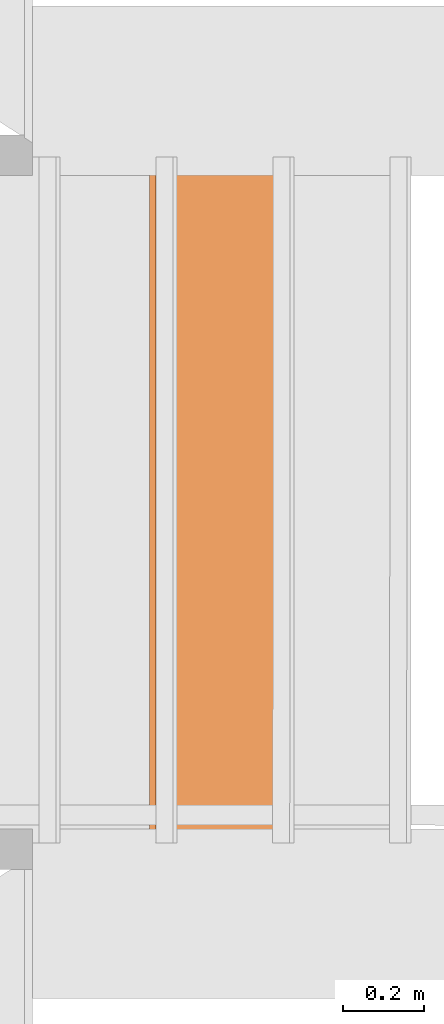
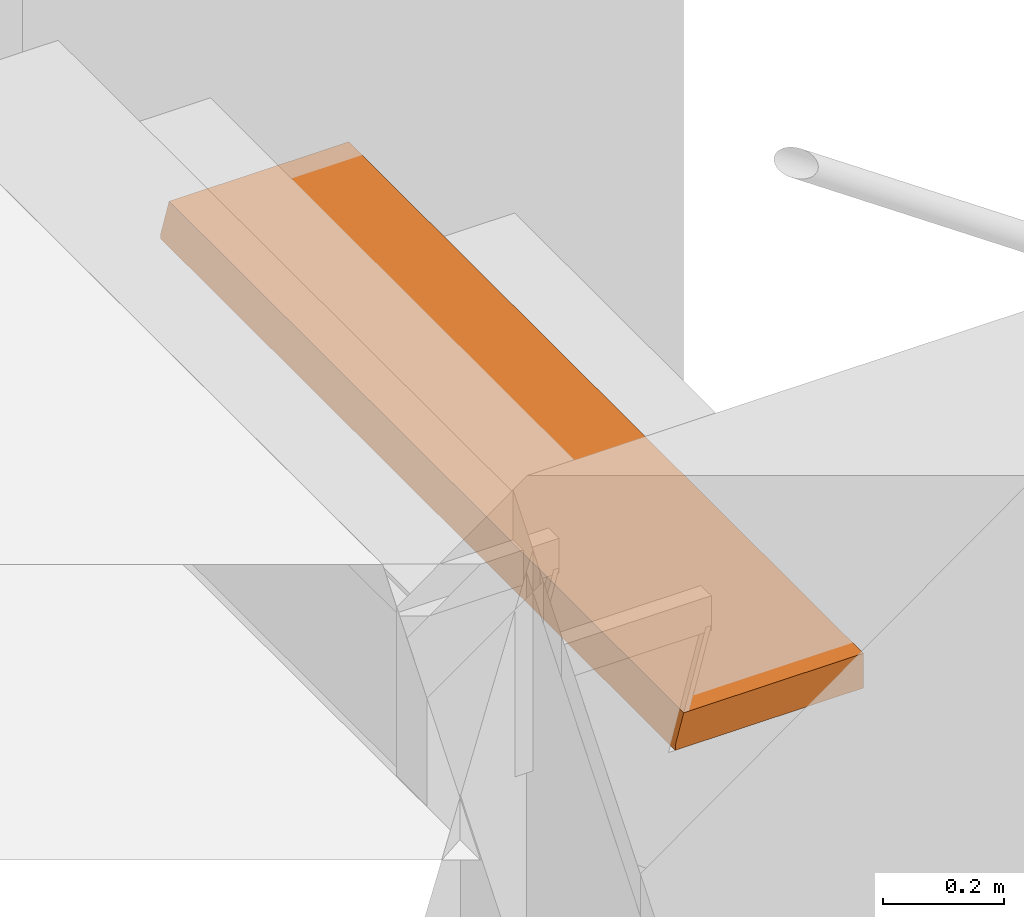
# One storey, part 194 of 194: 1 proxy, 1 element without a shape of its own.
"""IFC2X3 building model written with IfcOpenShell, lengths in millimetres."""

from ifc_helpers import new_model, entity, si_unit, converted_unit, derived_unit, money_unit, direction, frame, origin_with_axes, place, context, subcontext, project, spatial, faceted_brep, material, type_object, element, aggregate, save


model = new_model("IFC2X3")

# Units and contexts
model_context = context("Model", 3, precision=1e-05, world=origin_with_axes(), true_north=direction((0.0, 1.0)))
body_context = subcontext(model_context, "Body", "Model", "MODEL_VIEW")
ifc_project = project(units=[si_unit("LENGTHUNIT", "METRE", prefix="MILLI"), si_unit("AREAUNIT", "SQUARE_METRE"), si_unit("VOLUMEUNIT", "CUBIC_METRE"), converted_unit("PLANEANGLEUNIT", "DEGREE", entity("IfcPlaneAngleMeasure", 0.0174532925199), si_unit("PLANEANGLEUNIT", "RADIAN"), dimensions=[0, 0, 0, 0, 0, 0, 0]), si_unit("SOLIDANGLEUNIT", "STERADIAN"), money_unit("EUR"), converted_unit("TIMEUNIT", "Year", entity("IfcTimeMeasure", 31556926.0), si_unit("TIMEUNIT", "SECOND"), dimensions=[0, 0, 1, 0, 0, 0, 0]), si_unit("MASSUNIT", "GRAM", prefix="KILO"), si_unit("THERMODYNAMICTEMPERATUREUNIT", "DEGREE_CELSIUS"), si_unit("LUMINOUSINTENSITYUNIT", "LUMEN"), si_unit("ENERGYUNIT", "JOULE", prefix="MEGA"), derived_unit("THERMALCONDUCTANCEUNIT", [(si_unit("POWERUNIT", "WATT"), 1), (si_unit("LENGTHUNIT", "METRE"), -1), (si_unit("THERMODYNAMICTEMPERATUREUNIT", "KELVIN"), -1)]), derived_unit("SPECIFICHEATCAPACITYUNIT", [(si_unit("ENERGYUNIT", "JOULE"), 1), (si_unit("MASSUNIT", "GRAM", prefix="KILO"), -1), (si_unit("THERMODYNAMICTEMPERATUREUNIT", "KELVIN"), -1)]), derived_unit("MASSDENSITYUNIT", [(si_unit("MASSUNIT", "GRAM", prefix="KILO"), 1), (si_unit("VOLUMEUNIT", "CUBIC_METRE"), -1)])], contexts=[model_context])

# Site, building, storey
site_placement = place(None, origin_with_axes())
site = spatial("IfcSite", under=ifc_project, at=site_placement, Name="Site", CompositionType="ELEMENT")
building_placement = place(site_placement, origin_with_axes())
building = spatial("IfcBuilding", under=site, at=building_placement, Name="Building", CompositionType="ELEMENT")
storey_placement = place(building_placement, frame((0.0, 0.0, 3000.0), z_axis=(0.0, 0.0, 1.0), x_axis=(1.0, 0.0, 0.0)))
storey = spatial("IfcBuildingStorey", under=building, at=storey_placement, Name="2 KORRUS", CompositionType="ELEMENT", Elevation=3000.0)

# Stair, proxy
stair_placement = place(storey_placement, frame((44781.1711957, 65661.0237237, -870.0), z_axis=(0.0, 0.0, 1.0), x_axis=(1.0, 0.0, 0.0)))
stair = element("IfcStair", 1, at=stair_placement, inside=storey, Name="STAIR - 002", ShapeType="NOTDEFINED")
ifc_material = material(Name="Betoon - Ol.Olev konstruktsioon")
building_element_proxy_type = type_object("IfcBuildingElementProxyType", Name="SF TREAD - 026", PredefinedType="NOTDEFINED")
proxy_placement = place(stair_placement, frame((-289.802002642, 850.067526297, 435.0), z_axis=(0.0, 0.0, 1.0), x_axis=(0.00023292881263, 0.999999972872, 0.0)))
proxy = element("IfcBuildingElementProxy", 2, at=proxy_placement, type_object=building_element_proxy_type, material=ifc_material, Name=";  Objekti nimi: Tread 22", context=body_context, shape_type="Brep", body=[
    faceted_brep([(-850.0, 358.631711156, -70.0), (850.0, 358.63170623, -70.0), (850.0, 0.0, -70.0), (-850.0, 0.0, -70.0), (810.0, 40.0, -70.0), (810.0, 318.631706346, -70.0), (-810.0, 318.63171104, -70.0), (-810.0, 40.0, -70.0), (-850.0, 358.631711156, -60.0), (850.000000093, 358.631711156, -60.0), (850.0, 342.55475961, 0.0), (850.0, 0.0, 0.0), (-850.0, 0.0, 0.0), (-850.0, 342.55475961, 0.0), (810.0, 40.0, -60.0), (810.0, 318.631706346, -60.0), (-810.0, 318.63171104, -60.0), (-810.0, 40.0, -60.0)], [[[0, 1, 2, 3], [4, 5, 6, 7]], [[0, 8, 9, 1]], [[10, 11, 2, 1, 9]], [[11, 12, 3, 2]], [[12, 13, 8, 0, 3]], [[5, 4, 14, 15]], [[6, 5, 15, 16]], [[7, 6, 16, 17]], [[4, 7, 17, 14]], [[13, 10, 9, 8]], [[10, 13, 12, 11]], [[17, 16, 15, 14]]]),
])
aggregate(stair, [proxy])

save(model, "model.ifc")
